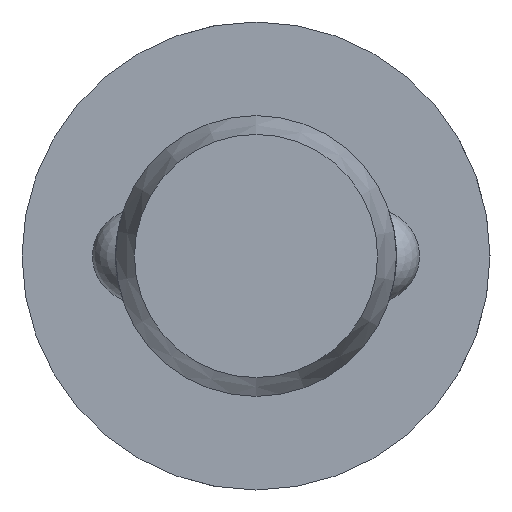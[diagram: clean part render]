
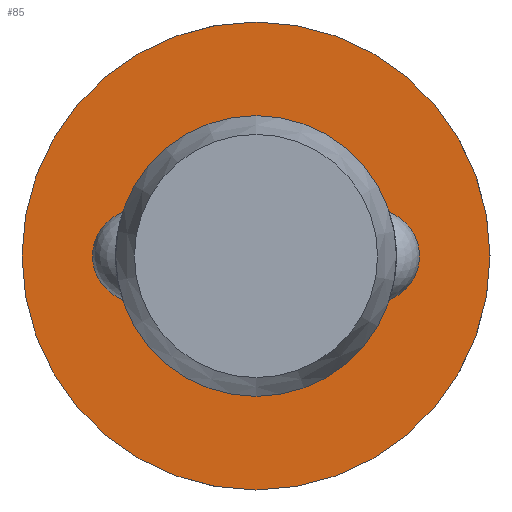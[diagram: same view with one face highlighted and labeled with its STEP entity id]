
A CAD part, left-side view. The second image highlights one B-rep face of the part: STEP entity #85.
In plain terms, the highlighted planar face has unit normal (-1, 0, 0).
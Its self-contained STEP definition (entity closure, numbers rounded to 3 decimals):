
#85 = ADVANCED_FACE( '', ( #131, #132 ), #133, .F. );
#131 = FACE_OUTER_BOUND( '', #204, .T. );
#132 = FACE_BOUND( '', #205, .T. );
#133 = PLANE( '', #206 );
#204 = EDGE_LOOP( '', ( #322 ) );
#205 = EDGE_LOOP( '', ( #323 ) );
#206 = AXIS2_PLACEMENT_3D( '', #324, #325, #326 );
#322 = ORIENTED_EDGE( '', *, *, #470, .F. );
#323 = ORIENTED_EDGE( '', *, *, #467, .T. );
#324 = CARTESIAN_POINT( '', ( 22., 3., 0. ) );
#325 = DIRECTION( '', ( 1., 0., 0. ) );
#326 = DIRECTION( '', ( 0., 0., -1. ) );
#467 = EDGE_CURVE( '', #541, #541, #542, .T. );
#470 = EDGE_CURVE( '', #547, #547, #548, .T. );
#541 = VERTEX_POINT( '', #749 );
#542 = CIRCLE( '', #750, 3. );
#547 = VERTEX_POINT( '', #817 );
#548 = CIRCLE( '', #818, 5. );
#749 = CARTESIAN_POINT( '', ( 22., 0., -3. ) );
#750 = AXIS2_PLACEMENT_3D( '', #897, #898, #899 );
#817 = CARTESIAN_POINT( '', ( 22., 0., -5. ) );
#818 = AXIS2_PLACEMENT_3D( '', #900, #901, #902 );
#897 = CARTESIAN_POINT( '', ( 22., 0., 0. ) );
#898 = DIRECTION( '', ( 1., 0., 0. ) );
#899 = DIRECTION( '', ( 0., 0., -1. ) );
#900 = CARTESIAN_POINT( '', ( 22., 0., 0. ) );
#901 = DIRECTION( '', ( 1., 0., 0. ) );
#902 = DIRECTION( '', ( 0., 0., -1. ) );
